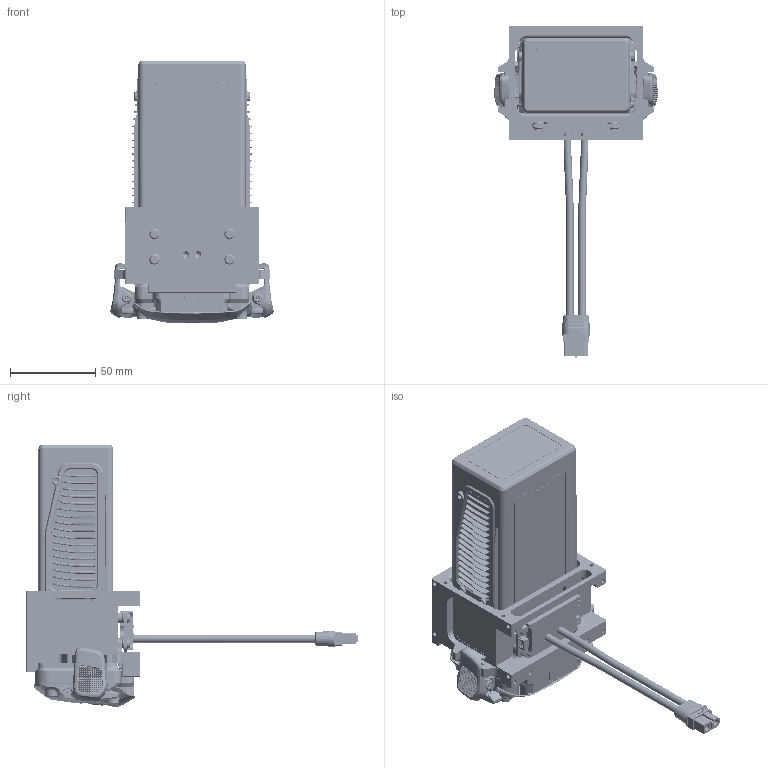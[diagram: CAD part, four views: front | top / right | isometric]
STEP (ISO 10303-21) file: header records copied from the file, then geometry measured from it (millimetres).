
FILE_DESCRIPTION((''),'2;1');
FILE_NAME('BATTERY_RACK_ASM','2024-11-07T17:32:31',('harry.weng'),(''),'CREO PARAMETRIC BY PTC INC, 2019164','CREO PARAMETRIC BY PTC INC, 2019164','');
FILE_SCHEMA(('CONFIG_CONTROL_DESIGN','SHAPE_APPEARANCE_LAYERS_GROUPS'));
Products named in the file (87): RUBRING-V01-20240614_4; 02_EA230_BATT_CON-M_HOUSING_1_1; 02_EA230_BATT_CON-M_GPIN_1_1; 02_EA230_BATT_CON-M_GPIN_2_1_1; 01_EA230_BATT_CON-M_ASM_1_ASM_1_ASM; YC_ST_LL000099_03_1; PC-F-01-V2-20240821_5; EVA-F-01-V2-20240821_9; PCBJY-F-01-V2-20240821_ASM_13_ASM; PC-B-01-V2-20240821_8; EVA-B-01-V2-20240821_4; PCBJY-B-01-V2-20240821_ASM_11_ASM; NAUO2__X2_52079664_X0_-_X2_62C9; NAUO1__X2_51F853F0_X0_-_X2_62C9; NAUO3__X2_52079664_X0_-_X2_62C9; XT60H-_X2_540E76D6_X0_-1_X2_51F; XT60H-F_V02_3D_ASM_1_ASM; XT60-WIRE_3; XT60-POWER_ASM_11_ASM; ASM0001_2; QRCODE_4X4_1; HOLE_PC6DC3P5_2; TP_C1P2_1; TP_C1_2; R1206-0P65_1; R0402_2; R0805_2; R0201_2; DO-214AC_2-4P65X2P8-2P42_2; SOD-523_2-1P2X0P8-0P77_2; C0402_D_2; L0402_C_1; L0603_C_2; F1206_2; ESD0201_1; SOD-882_2-1P02X0P62-0P5_2; SOD-323_1P7X1P3-1P05_2; C0201_A_2; C0805_D_2; C0603_C_2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
Assembly tree (183 placements, depth 8):
  BATTERY_RACK_ASM
    _V06-202409130001_ASM_12_ASM
      PCB-V02-2024082300_ASM_12_ASM
        RUBRING-V01-20240614_4  x4
        01_EA230_BATT_CON-M_ASM_1_ASM_1_ASM
          02_EA230_BATT_CON-M_HOUSING_1_1
          02_EA230_BATT_CON-M_GPIN_1_1  x4
          02_EA230_BATT_CON-M_GPIN_2_1_1  x5
        YC_ST_LL000099_03_1  x4
        PCBJY-F-01-V2-20240821_ASM_13_ASM
          PC-F-01-V2-20240821_5
          EVA-F-01-V2-20240821_9
        PCBJY-B-01-V2-20240821_ASM_11_ASM
          PC-B-01-V2-20240821_8
          EVA-B-01-V2-20240821_4
        XT60-POWER_ASM_11_ASM
          XT60H-F_V02_3D_ASM_1_ASM
            NAUO2__X2_52079664_X0_-_X2_62C9
            NAUO1__X2_51F853F0_X0_-_X2_62C9
            NAUO3__X2_52079664_X0_-_X2_62C9
            XT60H-_X2_540E76D6_X0_-1_X2_51F
          XT60-WIRE_3  x2
        PCB-02-20241008_ASM_2_ASM
          ASM0001_2
          QRCODE_4X4_1
          HOLE_PC6DC3P5_2  x2
          TP_C1P2_1  x10
          TP_C1_2  x9
          R1206-0P65_1  x2
          R0402_2  x3
          R0805_2  x2
          R0201_2  x33
          DO-214AC_2-4P65X2P8-2P42_2
          SOD-523_2-1P2X0P8-0P77_2
          C0402_D_2
          L0402_C_1
          L0603_C_2
          F1206_2  x2
          ESD0201_1  x2
          SOD-882_2-1P02X0P62-0P5_2
          SOD-323_1P7X1P3-1P05_2  x2
          C0201_A_2  x7
          C0805_D_2
          C0603_C_2
          C0402_B_2  x6
          SOT-23_3-1P9-2P9X1P6-1P25_2
          SOT-23_3-1P9-3X1P4-1P15_2
          X322508_2
          LED_4-1P6X1P6-0P7_3
          SOT-23_5-0P95-2P926X1P626-1P25_
          GH_3-1P25-7X4P05-4P35_H_2
          QFN_29-0P4-4X4-0P9-H2P8X2P8_2
      DCJ-V13-20241024_13
    BATTERY_ASM
      00_EA230_DRONE_BATTERY_ASM_1_ASM
        02_EA230_BATT_345CELL-V02_ASM_1_ASM
          04_EA230_BATT_COM-ASM_ASM_1_ASM
            04_EA230_BATT_COM-F_ASM_1
            00_EA230_BATT_CON_ASM_1_ASM
              01_EA230_BATT_CON-F_ASM_1_ASM
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Bounding box: 95.99 x 194.7 x 154.05 mm (x, y, z)
Volume: 96733.4 mm3; surface area: 170200.6 mm2
Topology: 164 solids, 192 shells, 19007 faces, 48870 edges, 30886 vertices
Faces by surface type: plane 7796, cylinder 4670, cone 2731, bspline 2472, torus 925, extrusion 282, sphere 127, revolution 4
Entity records: 790418 total; most frequent: CARTESIAN_POINT 276012, ORIENTED_EDGE 81054, DIRECTION 66546, EDGE_CURVE 40583, PRESENTATION_STYLE_ASSIGNMENT 39612, STYLED_ITEM 36247, CURVE_STYLE 33662, VERTEX_POINT 25487
